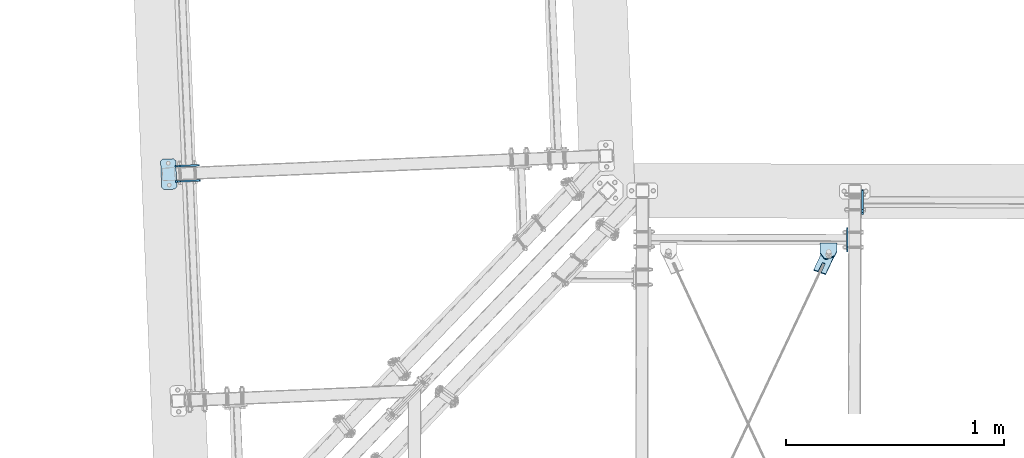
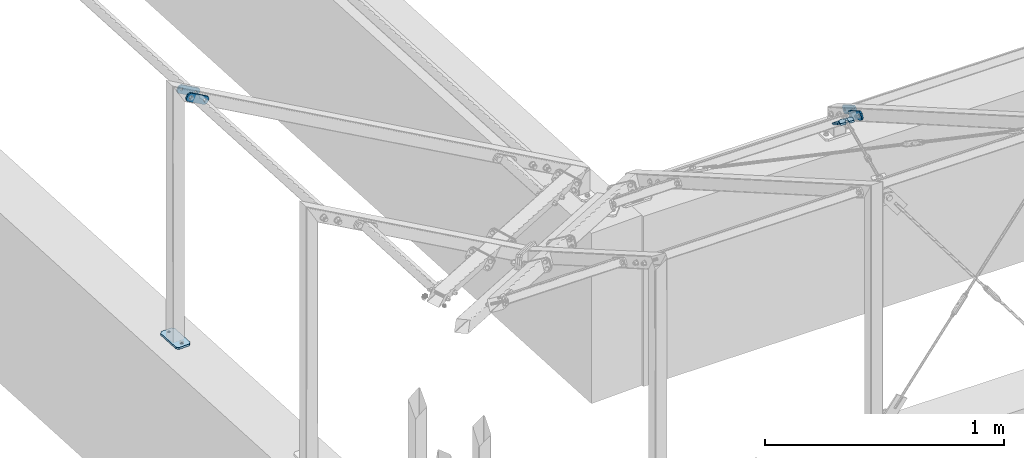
# One storey, part 30 of 288: 7 plates, 38 openings.
"""IFC2X3 building model written with IfcOpenShell, lengths in millimetres."""

from ifc_helpers import new_model, entity, si_unit, converted_unit, point, frame, frame_2d, origin, origin_with_axes, origin_2d_with_axis, place, context, project, spatial, polyline, circle_curve, line_curve, trimmed, segment, composite_curve, circle, outline, extrude, material, layer, layer_set, element, save


model = new_model("IFC2X3")

# Units and contexts
model_context = context("Model", 3, precision=1e-09, world=origin_with_axes())
ifc_project = project(units=[si_unit("LENGTHUNIT", "METRE", prefix="MILLI"), si_unit("AREAUNIT", "SQUARE_METRE"), si_unit("VOLUMEUNIT", "CUBIC_METRE"), converted_unit("PLANEANGLEUNIT", "DEGREE", entity("IfcPlaneAngleMeasure", 0.01745329), si_unit("PLANEANGLEUNIT", "RADIAN"), dimensions=[0, 0, 0, 0, 0, 0, 0])], contexts=[model_context])

# Site, building, storey
site_placement = place(None, origin_with_axes())
site = spatial("IfcSite", under=ifc_project, at=site_placement, Name="Remont ?wietlik?w nad MC w NCPP w Opolu", CompositionType="ELEMENT")
building_placement = place(site_placement, origin_with_axes())
building = spatial("IfcBuilding", under=site, at=building_placement, Name="Konstrukcja 1", CompositionType="ELEMENT")
storey_placement = place(building_placement, origin_with_axes())
storey = spatial("IfcBuildingStorey", under=building, at=storey_placement, Name="Default Storey", CompositionType="ELEMENT", Elevation=0.0)

# Plate, openings
ifc_material = material(Name="S235")
ifc_layer_1 = layer(ifc_material, 8.0)
ifc_layer_set_1 = layer_set([ifc_layer_1], Name="S235")
plate_1_placement = place(None, frame((-183.469602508, 1988.506375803, 1232.680042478), z_axis=(-0.041662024, 0.999131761, 1.7472e-05), x_axis=(0.499566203, 0.020815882, 0.866025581)))
plate_1 = element("IfcPlate", 1, at=plate_1_placement, inside=storey, material=ifc_layer_set_1, Name="-", ObjectType="-", context=model_context, shape_type="SweptSolid", body=[
    extrude(outline(polyline([(0.0, 0.0), (40.0, 0.0), (40.0, 120.0), (0.0, 120.0), (0.0, 0.0)])), origin_with_axes(), (0.0, 0.0, 1.0), 8.0),
])
opening_1_placement = place(plate_1_placement, frame((0.0, 0.0, -0.01), z_axis=(0.0, 0.0, 1.0), x_axis=(1.0, 0.0, 0.0)))
element("IfcOpeningElement", 2, at=opening_1_placement, cuts=plate_1, ObjectType="Opening", context=model_context, shape_type="SweptSolid", body=[
    extrude(outline(composite_curve([segment(trimmed(line_curve((40.0, 0.0), (0.0, 1.0), 10.0), [point((40.0, 0.0))], [point((40.0, 10.0))], True, "CARTESIAN"), True, "CONTINUOUS"), segment(trimmed(circle_curve(frame_2d((30.0, 10.0), x_axis=(-1.0, 0.0)), 10.0), [point((40.0, 10.0))], [point((30.0, 0.0))], False, "CARTESIAN"), True, "CONTINUOUS"), segment(trimmed(line_curve((30.0, 0.0), (1.0, 0.0), 10.0), [point((30.0, 0.0))], [point((40.0, 0.0))], True, "CARTESIAN"), True, "CONTINUOUS")], self_intersect=False)), origin(), (0.0, 0.0, 1.0), 8.02),
])
opening_2_placement = place(plate_1_placement, frame((0.0, 0.0, -0.01), z_axis=(0.0, 0.0, 1.0), x_axis=(1.0, 0.0, 0.0)))
element("IfcOpeningElement", 3, at=opening_2_placement, cuts=plate_1, ObjectType="Opening", context=model_context, shape_type="SweptSolid", body=[
    extrude(outline(composite_curve([segment(trimmed(line_curve((0.0, 0.0), (1.0, 0.0), 10.0), [point((0.0, 0.0))], [point((10.0, 0.0))], True, "CARTESIAN"), True, "CONTINUOUS"), segment(trimmed(circle_curve(frame_2d((10.0, 10.0), x_axis=(-1.0, 0.0)), 10.0), [point((10.0, 0.0))], [point((0.0, 10.0))], False, "CARTESIAN"), True, "CONTINUOUS"), segment(trimmed(line_curve((0.0, 10.0), (0.0, -1.0), 10.0), [point((0.0, 10.0))], [point((0.0, 0.0))], True, "CARTESIAN"), True, "CONTINUOUS")], self_intersect=False)), origin(), (0.0, 0.0, 1.0), 8.02),
])
opening_3_placement = place(plate_1_placement, frame((0.0, 0.0, -0.01), z_axis=(0.0, 0.0, 1.0), x_axis=(1.0, 0.0, 0.0)))
element("IfcOpeningElement", 4, at=opening_3_placement, cuts=plate_1, ObjectType="Opening", context=model_context, shape_type="SweptSolid", body=[
    extrude(outline(composite_curve([segment(trimmed(line_curve((40.0, 120.0), (-1.0, 0.0), 10.0), [point((40.0, 120.0))], [point((30.0, 120.0))], True, "CARTESIAN"), True, "CONTINUOUS"), segment(trimmed(circle_curve(frame_2d((30.0, 110.0), x_axis=(-1.0, 0.0)), 10.0), [point((30.0, 120.0))], [point((40.0, 110.0))], False, "CARTESIAN"), True, "CONTINUOUS"), segment(trimmed(line_curve((40.0, 110.0), (0.0, 1.0), 10.0), [point((40.0, 110.0))], [point((40.0, 120.0))], True, "CARTESIAN"), True, "CONTINUOUS")], self_intersect=False)), origin(), (0.0, 0.0, 1.0), 8.02),
])
opening_4_placement = place(plate_1_placement, frame((0.0, 0.0, -0.01), z_axis=(0.0, 0.0, 1.0), x_axis=(1.0, 0.0, 0.0)))
element("IfcOpeningElement", 5, at=opening_4_placement, cuts=plate_1, ObjectType="Opening", context=model_context, shape_type="SweptSolid", body=[
    extrude(outline(composite_curve([segment(trimmed(line_curve((0.0, 120.0), (0.0, -1.0), 10.0), [point((0.0, 120.0))], [point((0.0, 110.0))], True, "CARTESIAN"), True, "CONTINUOUS"), segment(trimmed(circle_curve(frame_2d((10.0, 110.0), x_axis=(-1.0, 0.0)), 10.0), [point((0.0, 110.0))], [point((10.0, 120.0))], False, "CARTESIAN"), True, "CONTINUOUS"), segment(trimmed(line_curve((10.0, 120.0), (-1.0, 0.0), 10.0), [point((10.0, 120.0))], [point((0.0, 120.0))], True, "CARTESIAN"), True, "CONTINUOUS")], self_intersect=False)), origin(), (0.0, 0.0, 1.0), 8.02),
])
opening_5_placement = place(plate_1_placement, frame((12.999, 20.0, 8.5), z_axis=(0.0, 0.0, 1.0), x_axis=(1.0, 0.0, 0.0)))
element("IfcOpeningElement", 6, at=opening_5_placement, cuts=plate_1, ObjectType="Opening", context=model_context, shape_type="SweptSolid", body=[
    extrude(circle(Radius=7.001, at=frame_2d((7.001, 0.0), x_axis=(1.0, 0.0))), origin(), (0.0, 0.0, -1.0), 9.0),
])
opening_6_placement = place(plate_1_placement, frame((12.999, 100.0, 8.5), z_axis=(0.0, 0.0, 1.0), x_axis=(1.0, 0.0, 0.0)))
element("IfcOpeningElement", 7, at=opening_6_placement, cuts=plate_1, ObjectType="Opening", context=model_context, shape_type="SweptSolid", body=[
    extrude(circle(Radius=7.001, at=frame_2d((7.001, 0.0), x_axis=(1.0, 0.0))), origin(), (0.0, 0.0, -1.0), 9.0),
])

plate_2_placement = place(None, frame((-180.553260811, 1918.567152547, 1232.678819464), z_axis=(-0.041662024, 0.999131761, 1.7472e-05), x_axis=(0.499566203, 0.020815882, 0.866025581)))
plate_2 = element("IfcPlate", 8, at=plate_2_placement, inside=storey, material=ifc_layer_set_1, Name="-", ObjectType="-", context=model_context, shape_type="SweptSolid", body=[
    extrude(outline(polyline([(0.0, 0.0), (40.0, 0.0), (40.0, 120.0), (0.0, 120.0), (0.0, 0.0)])), origin_with_axes(), (0.0, 0.0, 1.0), 8.0),
])
opening_7_placement = place(plate_2_placement, frame((0.0, 0.0, -0.01), z_axis=(0.0, 0.0, 1.0), x_axis=(1.0, 0.0, 0.0)))
element("IfcOpeningElement", 9, at=opening_7_placement, cuts=plate_2, ObjectType="Opening", context=model_context, shape_type="SweptSolid", body=[
    extrude(outline(composite_curve([segment(trimmed(line_curve((40.0, 0.0), (0.0, 1.0), 10.0), [point((40.0, 0.0))], [point((40.0, 10.0))], True, "CARTESIAN"), True, "CONTINUOUS"), segment(trimmed(circle_curve(frame_2d((30.0, 10.0), x_axis=(-1.0, 0.0)), 10.0), [point((40.0, 10.0))], [point((30.0, 0.0))], False, "CARTESIAN"), True, "CONTINUOUS"), segment(trimmed(line_curve((30.0, 0.0), (1.0, 0.0), 10.0), [point((30.0, 0.0))], [point((40.0, 0.0))], True, "CARTESIAN"), True, "CONTINUOUS")], self_intersect=False)), origin(), (0.0, 0.0, 1.0), 8.02),
])
opening_8_placement = place(plate_2_placement, frame((0.0, 0.0, -0.01), z_axis=(0.0, 0.0, 1.0), x_axis=(1.0, 0.0, 0.0)))
element("IfcOpeningElement", 10, at=opening_8_placement, cuts=plate_2, ObjectType="Opening", context=model_context, shape_type="SweptSolid", body=[
    extrude(outline(composite_curve([segment(trimmed(line_curve((0.0, 0.0), (1.0, 0.0), 10.0), [point((0.0, 0.0))], [point((10.0, 0.0))], True, "CARTESIAN"), True, "CONTINUOUS"), segment(trimmed(circle_curve(frame_2d((10.0, 10.0), x_axis=(-1.0, 0.0)), 10.0), [point((10.0, 0.0))], [point((0.0, 10.0))], False, "CARTESIAN"), True, "CONTINUOUS"), segment(trimmed(line_curve((0.0, 10.0), (0.0, -1.0), 10.0), [point((0.0, 10.0))], [point((0.0, 0.0))], True, "CARTESIAN"), True, "CONTINUOUS")], self_intersect=False)), origin(), (0.0, 0.0, 1.0), 8.02),
])
opening_9_placement = place(plate_2_placement, frame((0.0, 0.0, -0.01), z_axis=(0.0, 0.0, 1.0), x_axis=(1.0, 0.0, 0.0)))
element("IfcOpeningElement", 11, at=opening_9_placement, cuts=plate_2, ObjectType="Opening", context=model_context, shape_type="SweptSolid", body=[
    extrude(outline(composite_curve([segment(trimmed(line_curve((40.0, 120.0), (-1.0, 0.0), 10.0), [point((40.0, 120.0))], [point((30.0, 120.0))], True, "CARTESIAN"), True, "CONTINUOUS"), segment(trimmed(circle_curve(frame_2d((30.0, 110.0), x_axis=(-1.0, 0.0)), 10.0), [point((30.0, 120.0))], [point((40.0, 110.0))], False, "CARTESIAN"), True, "CONTINUOUS"), segment(trimmed(line_curve((40.0, 110.0), (0.0, 1.0), 10.0), [point((40.0, 110.0))], [point((40.0, 120.0))], True, "CARTESIAN"), True, "CONTINUOUS")], self_intersect=False)), origin(), (0.0, 0.0, 1.0), 8.02),
])
opening_10_placement = place(plate_2_placement, frame((0.0, 0.0, -0.01), z_axis=(0.0, 0.0, 1.0), x_axis=(1.0, 0.0, 0.0)))
element("IfcOpeningElement", 12, at=opening_10_placement, cuts=plate_2, ObjectType="Opening", context=model_context, shape_type="SweptSolid", body=[
    extrude(outline(composite_curve([segment(trimmed(line_curve((0.0, 120.0), (0.0, -1.0), 10.0), [point((0.0, 120.0))], [point((0.0, 110.0))], True, "CARTESIAN"), True, "CONTINUOUS"), segment(trimmed(circle_curve(frame_2d((10.0, 110.0), x_axis=(-1.0, 0.0)), 10.0), [point((0.0, 110.0))], [point((10.0, 120.0))], False, "CARTESIAN"), True, "CONTINUOUS"), segment(trimmed(line_curve((10.0, 120.0), (-1.0, 0.0), 10.0), [point((10.0, 120.0))], [point((0.0, 120.0))], True, "CARTESIAN"), True, "CONTINUOUS")], self_intersect=False)), origin(), (0.0, 0.0, 1.0), 8.02),
])
opening_11_placement = place(plate_2_placement, frame((12.999, 20.0, 8.5), z_axis=(0.0, 0.0, 1.0), x_axis=(1.0, 0.0, 0.0)))
element("IfcOpeningElement", 13, at=opening_11_placement, cuts=plate_2, ObjectType="Opening", context=model_context, shape_type="SweptSolid", body=[
    extrude(circle(Radius=7.001, at=frame_2d((7.001, 0.0), x_axis=(1.0, 0.0))), origin(), (0.0, 0.0, -1.0), 9.0),
])
opening_12_placement = place(plate_2_placement, frame((12.999, 100.0, 8.5), z_axis=(0.0, 0.0, 1.0), x_axis=(1.0, 0.0, 0.0)))
element("IfcOpeningElement", 14, at=opening_12_placement, cuts=plate_2, ObjectType="Opening", context=model_context, shape_type="SweptSolid", body=[
    extrude(circle(Radius=7.001, at=frame_2d((7.001, 0.0), x_axis=(1.0, 0.0))), origin(), (0.0, 0.0, -1.0), 9.0),
])

plate_3_placement = place(None, frame((2973.751144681, 1766.458765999, 151.004710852), z_axis=(0.999997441, -0.002262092, 1.05e-07), x_axis=(0.001959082, 0.866023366, -0.499999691)))
plate_3 = element("IfcPlate", 15, at=plate_3_placement, inside=storey, material=ifc_layer_set_1, Name="-", ObjectType="-", context=model_context, shape_type="SweptSolid", body=[
    extrude(outline(polyline([(0.0, 0.0), (120.0, 0.0), (120.0, 40.0), (0.0, 40.0), (0.0, 0.0)])), origin_with_axes(), (0.0, 0.0, 1.0), 8.0),
])
opening_13_placement = place(plate_3_placement, frame((0.0, 0.0, -0.01), z_axis=(0.0, 0.0, 1.0), x_axis=(1.0, 0.0, 0.0)))
element("IfcOpeningElement", 16, at=opening_13_placement, cuts=plate_3, ObjectType="Opening", context=model_context, shape_type="SweptSolid", body=[
    extrude(outline(composite_curve([segment(trimmed(line_curve((0.0, 40.0), (0.0, -1.0), 10.0), [point((0.0, 40.0))], [point((0.0, 30.0))], True, "CARTESIAN"), True, "CONTINUOUS"), segment(trimmed(circle_curve(frame_2d((10.0, 30.0), x_axis=(-1.0, 0.0)), 10.0), [point((0.0, 30.0))], [point((10.0, 40.0))], False, "CARTESIAN"), True, "CONTINUOUS"), segment(trimmed(line_curve((10.0, 40.0), (-1.0, 0.0), 10.0), [point((10.0, 40.0))], [point((0.0, 40.0))], True, "CARTESIAN"), True, "CONTINUOUS")], self_intersect=False)), origin(), (0.0, 0.0, 1.0), 8.02),
])
opening_14_placement = place(plate_3_placement, frame((0.0, 0.0, -0.01), z_axis=(0.0, 0.0, 1.0), x_axis=(1.0, 0.0, 0.0)))
element("IfcOpeningElement", 17, at=opening_14_placement, cuts=plate_3, ObjectType="Opening", context=model_context, shape_type="SweptSolid", body=[
    extrude(outline(composite_curve([segment(trimmed(line_curve((0.0, 0.0), (1.0, 0.0), 10.0), [point((0.0, 0.0))], [point((10.0, 0.0))], True, "CARTESIAN"), True, "CONTINUOUS"), segment(trimmed(circle_curve(frame_2d((10.0, 10.0), x_axis=(-1.0, 0.0)), 10.0), [point((10.0, 0.0))], [point((0.0, 10.0))], False, "CARTESIAN"), True, "CONTINUOUS"), segment(trimmed(line_curve((0.0, 10.0), (0.0, -1.0), 10.0), [point((0.0, 10.0))], [point((0.0, 0.0))], True, "CARTESIAN"), True, "CONTINUOUS")], self_intersect=False)), origin(), (0.0, 0.0, 1.0), 8.02),
])
opening_15_placement = place(plate_3_placement, frame((0.0, 0.0, -0.01), z_axis=(0.0, 0.0, 1.0), x_axis=(1.0, 0.0, 0.0)))
element("IfcOpeningElement", 18, at=opening_15_placement, cuts=plate_3, ObjectType="Opening", context=model_context, shape_type="SweptSolid", body=[
    extrude(outline(composite_curve([segment(trimmed(line_curve((120.0, 40.0), (-1.0, 0.0), 10.0), [point((120.0, 40.0))], [point((110.0, 40.0))], True, "CARTESIAN"), True, "CONTINUOUS"), segment(trimmed(circle_curve(frame_2d((110.0, 30.0), x_axis=(-1.0, 0.0)), 10.0), [point((110.0, 40.0))], [point((120.0, 30.0))], False, "CARTESIAN"), True, "CONTINUOUS"), segment(trimmed(line_curve((120.0, 30.0), (0.0, 1.0), 10.0), [point((120.0, 30.0))], [point((120.0, 40.0))], True, "CARTESIAN"), True, "CONTINUOUS")], self_intersect=False)), origin(), (0.0, 0.0, 1.0), 8.02),
])
opening_16_placement = place(plate_3_placement, frame((0.0, 0.0, -0.01), z_axis=(0.0, 0.0, 1.0), x_axis=(1.0, 0.0, 0.0)))
element("IfcOpeningElement", 19, at=opening_16_placement, cuts=plate_3, ObjectType="Opening", context=model_context, shape_type="SweptSolid", body=[
    extrude(outline(composite_curve([segment(trimmed(line_curve((120.0, 0.0), (0.0, 1.0), 10.0), [point((120.0, 0.0))], [point((120.0, 10.0))], True, "CARTESIAN"), True, "CONTINUOUS"), segment(trimmed(circle_curve(frame_2d((110.0, 10.0), x_axis=(-1.0, 0.0)), 10.0), [point((120.0, 10.0))], [point((110.0, 0.0))], False, "CARTESIAN"), True, "CONTINUOUS"), segment(trimmed(line_curve((110.0, 0.0), (1.0, 0.0), 10.0), [point((110.0, 0.0))], [point((120.0, 0.0))], True, "CARTESIAN"), True, "CONTINUOUS")], self_intersect=False)), origin(), (0.0, 0.0, 1.0), 8.02),
])
opening_17_placement = place(plate_3_placement, frame((27.001, 20.0, -0.5), z_axis=(0.0, 0.0, -1.0), x_axis=(-1.0, 0.0, 0.0)))
element("IfcOpeningElement", 20, at=opening_17_placement, cuts=plate_3, ObjectType="Opening", context=model_context, shape_type="SweptSolid", body=[
    extrude(circle(Radius=7.001, at=frame_2d((7.001, 0.0), x_axis=(1.0, 0.0))), origin(), (0.0, 0.0, -1.0), 9.0),
])
opening_18_placement = place(plate_3_placement, frame((107.001, 20.0, -0.5), z_axis=(0.0, 0.0, -1.0), x_axis=(-1.0, 0.0, 0.0)))
element("IfcOpeningElement", 21, at=opening_18_placement, cuts=plate_3, ObjectType="Opening", context=model_context, shape_type="SweptSolid", body=[
    extrude(circle(Radius=7.001, at=frame_2d((7.001, 0.0), x_axis=(1.0, 0.0))), origin(), (0.0, 0.0, -1.0), 9.0),
])

plate_4_placement = place(None, frame((2903.360375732, 1593.453744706, 250.980454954), z_axis=(0.999997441, -0.002262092, 1.05e-07), x_axis=(0.001959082, 0.866023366, -0.499999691)))
plate_4 = element("IfcPlate", 22, at=plate_4_placement, inside=storey, material=ifc_layer_set_1, Name="-", ObjectType="-", context=model_context, shape_type="SweptSolid", body=[
    extrude(outline(polyline([(0.0, 0.0), (120.0, 0.0), (120.0, 40.0), (0.0, 40.0), (0.0, 0.0)])), origin_with_axes(), (0.0, 0.0, 1.0), 8.0),
])
opening_19_placement = place(plate_4_placement, frame((0.0, 0.0, -0.01), z_axis=(0.0, 0.0, 1.0), x_axis=(1.0, 0.0, 0.0)))
element("IfcOpeningElement", 23, at=opening_19_placement, cuts=plate_4, ObjectType="Opening", context=model_context, shape_type="SweptSolid", body=[
    extrude(outline(composite_curve([segment(trimmed(line_curve((0.0, 40.0), (0.0, -1.0), 10.0), [point((0.0, 40.0))], [point((0.0, 30.0))], True, "CARTESIAN"), True, "CONTINUOUS"), segment(trimmed(circle_curve(frame_2d((10.0, 30.0), x_axis=(-1.0, 0.0)), 10.0), [point((0.0, 30.0))], [point((10.0, 40.0))], False, "CARTESIAN"), True, "CONTINUOUS"), segment(trimmed(line_curve((10.0, 40.0), (-1.0, 0.0), 10.0), [point((10.0, 40.0))], [point((0.0, 40.0))], True, "CARTESIAN"), True, "CONTINUOUS")], self_intersect=False)), origin(), (0.0, 0.0, 1.0), 8.02),
])
opening_20_placement = place(plate_4_placement, frame((0.0, 0.0, -0.01), z_axis=(0.0, 0.0, 1.0), x_axis=(1.0, 0.0, 0.0)))
element("IfcOpeningElement", 24, at=opening_20_placement, cuts=plate_4, ObjectType="Opening", context=model_context, shape_type="SweptSolid", body=[
    extrude(outline(composite_curve([segment(trimmed(line_curve((0.0, 0.0), (1.0, 0.0), 10.0), [point((0.0, 0.0))], [point((10.0, 0.0))], True, "CARTESIAN"), True, "CONTINUOUS"), segment(trimmed(circle_curve(frame_2d((10.0, 10.0), x_axis=(-1.0, 0.0)), 10.0), [point((10.0, 0.0))], [point((0.0, 10.0))], False, "CARTESIAN"), True, "CONTINUOUS"), segment(trimmed(line_curve((0.0, 10.0), (0.0, -1.0), 10.0), [point((0.0, 10.0))], [point((0.0, 0.0))], True, "CARTESIAN"), True, "CONTINUOUS")], self_intersect=False)), origin(), (0.0, 0.0, 1.0), 8.02),
])
opening_21_placement = place(plate_4_placement, frame((0.0, 0.0, -0.01), z_axis=(0.0, 0.0, 1.0), x_axis=(1.0, 0.0, 0.0)))
element("IfcOpeningElement", 25, at=opening_21_placement, cuts=plate_4, ObjectType="Opening", context=model_context, shape_type="SweptSolid", body=[
    extrude(outline(composite_curve([segment(trimmed(line_curve((120.0, 40.0), (-1.0, 0.0), 10.0), [point((120.0, 40.0))], [point((110.0, 40.0))], True, "CARTESIAN"), True, "CONTINUOUS"), segment(trimmed(circle_curve(frame_2d((110.0, 30.0), x_axis=(-1.0, 0.0)), 10.0), [point((110.0, 40.0))], [point((120.0, 30.0))], False, "CARTESIAN"), True, "CONTINUOUS"), segment(trimmed(line_curve((120.0, 30.0), (0.0, 1.0), 10.0), [point((120.0, 30.0))], [point((120.0, 40.0))], True, "CARTESIAN"), True, "CONTINUOUS")], self_intersect=False)), origin(), (0.0, 0.0, 1.0), 8.02),
])
opening_22_placement = place(plate_4_placement, frame((0.0, 0.0, -0.01), z_axis=(0.0, 0.0, 1.0), x_axis=(1.0, 0.0, 0.0)))
element("IfcOpeningElement", 26, at=opening_22_placement, cuts=plate_4, ObjectType="Opening", context=model_context, shape_type="SweptSolid", body=[
    extrude(outline(composite_curve([segment(trimmed(line_curve((120.0, 0.0), (0.0, 1.0), 10.0), [point((120.0, 0.0))], [point((120.0, 10.0))], True, "CARTESIAN"), True, "CONTINUOUS"), segment(trimmed(circle_curve(frame_2d((110.0, 10.0), x_axis=(-1.0, 0.0)), 10.0), [point((120.0, 10.0))], [point((110.0, 0.0))], False, "CARTESIAN"), True, "CONTINUOUS"), segment(trimmed(line_curve((110.0, 0.0), (1.0, 0.0), 10.0), [point((110.0, 0.0))], [point((120.0, 0.0))], True, "CARTESIAN"), True, "CONTINUOUS")], self_intersect=False)), origin(), (0.0, 0.0, 1.0), 8.02),
])
opening_23_placement = place(plate_4_placement, frame((27.001, 20.000292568, -0.5), z_axis=(0.0, 0.0, -1.0), x_axis=(-1.0, 0.0, 0.0)))
element("IfcOpeningElement", 27, at=opening_23_placement, cuts=plate_4, ObjectType="Opening", context=model_context, shape_type="SweptSolid", body=[
    extrude(circle(Radius=7.001, at=frame_2d((7.001, 0.0), x_axis=(1.0, 0.0))), origin(), (0.0, 0.0, -1.0), 9.0),
])
opening_24_placement = place(plate_4_placement, frame((107.001, 20.000292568, -0.5), z_axis=(0.0, 0.0, -1.0), x_axis=(-1.0, 0.0, 0.0)))
element("IfcOpeningElement", 28, at=opening_24_placement, cuts=plate_4, ObjectType="Opening", context=model_context, shape_type="SweptSolid", body=[
    extrude(circle(Radius=7.001, at=frame_2d((7.001, 0.0), x_axis=(1.0, 0.0))), origin(), (0.0, 0.0, -1.0), 9.0),
])

ifc_layer_2 = layer(ifc_material, 10.0)
ifc_layer_set_2 = layer_set([ifc_layer_2], Name="S235")
plate_5_placement = place(None, frame((-168.824330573, 1888.028982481, 9.999999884), z_axis=(0.0, 0.0, -1.0), x_axis=(-0.999131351, -0.041671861, 0.0)))
plate_5 = element("IfcPlate", 29, at=plate_5_placement, inside=storey, material=ifc_layer_set_2, Name="Baseplate", ObjectType="Baseplate", context=model_context, shape_type="SweptSolid", body=[
    extrude(outline(polyline([(0.0, 0.0), (70.0, 0.0), (70.0, 140.0), (0.0, 140.0), (0.0, 0.0)])), origin_with_axes(), (0.0, 0.0, 1.0), 10.0),
])
opening_25_placement = place(plate_5_placement, frame((0.0, 0.0, -0.01), z_axis=(0.0, 0.0, 1.0), x_axis=(1.0, 0.0, 0.0)))
element("IfcOpeningElement", 30, at=opening_25_placement, cuts=plate_5, ObjectType="Opening", context=model_context, shape_type="SweptSolid", body=[
    extrude(outline(composite_curve([segment(trimmed(line_curve((70.0, 0.0), (0.0, 1.0), 10.0), [point((70.0, 0.0))], [point((70.0, 10.0))], True, "CARTESIAN"), True, "CONTINUOUS"), segment(trimmed(circle_curve(frame_2d((60.0, 10.0), x_axis=(-1.0, 0.0)), 10.0), [point((70.0, 10.0))], [point((60.0, 0.0))], False, "CARTESIAN"), True, "CONTINUOUS"), segment(trimmed(line_curve((60.0, 0.0), (1.0, 0.0), 10.0), [point((60.0, 0.0))], [point((70.0, 0.0))], True, "CARTESIAN"), True, "CONTINUOUS")], self_intersect=False)), origin(), (0.0, 0.0, 1.0), 10.02),
])
opening_26_placement = place(plate_5_placement, frame((0.0, 0.0, -0.01), z_axis=(0.0, 0.0, 1.0), x_axis=(1.0, 0.0, 0.0)))
element("IfcOpeningElement", 31, at=opening_26_placement, cuts=plate_5, ObjectType="Opening", context=model_context, shape_type="SweptSolid", body=[
    extrude(outline(composite_curve([segment(trimmed(line_curve((0.0, 0.0), (1.0, 0.0), 10.0), [point((0.0, 0.0))], [point((10.0, 0.0))], True, "CARTESIAN"), True, "CONTINUOUS"), segment(trimmed(circle_curve(frame_2d((10.0, 10.0), x_axis=(-1.0, 0.0)), 10.0), [point((10.0, 0.0))], [point((0.0, 10.0))], False, "CARTESIAN"), True, "CONTINUOUS"), segment(trimmed(line_curve((0.0, 10.0), (0.0, -1.0), 10.0), [point((0.0, 10.0))], [point((0.0, 0.0))], True, "CARTESIAN"), True, "CONTINUOUS")], self_intersect=False)), origin(), (0.0, 0.0, 1.0), 10.02),
])
opening_27_placement = place(plate_5_placement, frame((0.0, 0.0, -0.01), z_axis=(0.0, 0.0, 1.0), x_axis=(1.0, 0.0, 0.0)))
element("IfcOpeningElement", 32, at=opening_27_placement, cuts=plate_5, ObjectType="Opening", context=model_context, shape_type="SweptSolid", body=[
    extrude(outline(composite_curve([segment(trimmed(line_curve((70.0, 140.0), (-1.0, 0.0), 10.0), [point((70.0, 140.0))], [point((60.0, 140.0))], True, "CARTESIAN"), True, "CONTINUOUS"), segment(trimmed(circle_curve(frame_2d((60.0, 130.0), x_axis=(-1.0, 0.0)), 10.0), [point((60.0, 140.0))], [point((70.0, 130.0))], False, "CARTESIAN"), True, "CONTINUOUS"), segment(trimmed(line_curve((70.0, 130.0), (0.0, 1.0), 10.0), [point((70.0, 130.0))], [point((70.0, 140.0))], True, "CARTESIAN"), True, "CONTINUOUS")], self_intersect=False)), origin(), (0.0, 0.0, 1.0), 10.02),
])
opening_28_placement = place(plate_5_placement, frame((0.0, 0.0, -0.01), z_axis=(0.0, 0.0, 1.0), x_axis=(1.0, 0.0, 0.0)))
element("IfcOpeningElement", 33, at=opening_28_placement, cuts=plate_5, ObjectType="Opening", context=model_context, shape_type="SweptSolid", body=[
    extrude(outline(composite_curve([segment(trimmed(line_curve((0.0, 140.0), (0.0, -1.0), 10.0), [point((0.0, 140.0))], [point((0.0, 130.0))], True, "CARTESIAN"), True, "CONTINUOUS"), segment(trimmed(circle_curve(frame_2d((10.0, 130.0), x_axis=(-1.0, 0.0)), 10.0), [point((0.0, 130.0))], [point((10.0, 140.0))], False, "CARTESIAN"), True, "CONTINUOUS"), segment(trimmed(line_curve((10.0, 140.0), (-1.0, 0.0), 10.0), [point((10.0, 140.0))], [point((0.0, 140.0))], True, "CARTESIAN"), True, "CONTINUOUS")], self_intersect=False)), origin(), (0.0, 0.0, 1.0), 10.02),
])
opening_29_placement = place(plate_5_placement, frame((35.0, 20.0, 10.5), z_axis=(0.0, 0.0, -1.0), x_axis=(1.0, 0.0, 0.0)))
element("IfcOpeningElement", 34, at=opening_29_placement, cuts=plate_5, ObjectType="Opening", context=model_context, shape_type="SweptSolid", body=[
    extrude(circle(Radius=6.001, at=origin_2d_with_axis()), origin(), (0.0, 0.0, 1.0), 11.0),
])
opening_30_placement = place(plate_5_placement, frame((35.0, 120.0, 10.5), z_axis=(0.0, 0.0, -1.0), x_axis=(1.0, 0.0, 0.0)))
element("IfcOpeningElement", 35, at=opening_30_placement, cuts=plate_5, ObjectType="Opening", context=model_context, shape_type="SweptSolid", body=[
    extrude(circle(Radius=6.001, at=origin_2d_with_axis()), origin(), (0.0, 0.0, 1.0), 11.0),
])

plate_6_placement = place(None, frame((2808.847254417, 1498.08660217, 343.113941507), z_axis=(-0.001127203, -0.499998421, -0.866025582), x_axis=(-0.925763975, 0.327966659, -0.188146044)))
plate_6 = element("IfcPlate", 36, at=plate_6_placement, inside=storey, material=ifc_layer_set_1, Name="Tab_Plate#2", ObjectType="Tab_Plate#2", context=model_context, shape_type="SweptSolid", body=[
    extrude(outline(polyline([(0.0, 0.0), (60.0, 0.0), (60.0, 140.0), (0.0, 140.0), (0.0, 0.0)])), origin_with_axes(), (0.0, 0.0, 1.0), 8.0),
])
opening_31_placement = place(plate_6_placement, frame((0.0, 0.0, -0.01), z_axis=(0.0, 0.0, 1.0), x_axis=(1.0, 0.0, 0.0)))
element("IfcOpeningElement", 37, at=opening_31_placement, cuts=plate_6, ObjectType="Opening", context=model_context, shape_type="SweptSolid", body=[
    extrude(outline(composite_curve([segment(trimmed(line_curve((60.0, 140.0), (-1.0, 0.0), 30.0), [point((60.0, 140.0))], [point((30.0, 140.0))], True, "CARTESIAN"), True, "CONTINUOUS"), segment(trimmed(circle_curve(frame_2d((30.0, 110.0), x_axis=(-1.0, 0.0)), 30.0), [point((30.0, 140.0))], [point((60.0, 110.0))], False, "CARTESIAN"), True, "CONTINUOUS"), segment(trimmed(line_curve((60.0, 110.0), (0.0, 1.0), 30.0), [point((60.0, 110.0))], [point((60.0, 140.0))], True, "CARTESIAN"), True, "CONTINUOUS")], self_intersect=False)), origin(), (0.0, 0.0, 1.0), 8.02),
])
opening_32_placement = place(plate_6_placement, frame((0.0, 0.0, -0.01), z_axis=(0.0, 0.0, 1.0), x_axis=(1.0, 0.0, 0.0)))
element("IfcOpeningElement", 38, at=opening_32_placement, cuts=plate_6, ObjectType="Opening", context=model_context, shape_type="SweptSolid", body=[
    extrude(outline(composite_curve([segment(trimmed(line_curve((0.0, 140.0), (0.0, -1.0), 30.0), [point((0.0, 140.0))], [point((0.0, 110.0))], True, "CARTESIAN"), True, "CONTINUOUS"), segment(trimmed(circle_curve(frame_2d((30.0, 110.0), x_axis=(-1.0, 0.0)), 30.0), [point((0.0, 110.0))], [point((30.0, 140.0))], False, "CARTESIAN"), True, "CONTINUOUS"), segment(trimmed(line_curve((30.0, 140.0), (-1.0, 0.0), 30.0), [point((30.0, 140.0))], [point((0.0, 140.0))], True, "CARTESIAN"), True, "CONTINUOUS")], self_intersect=False)), origin(), (0.0, 0.0, 1.0), 8.02),
])
opening_33_placement = place(plate_6_placement, frame((0.0, 0.0, 8.1), z_axis=(0.0, 0.0, -1.0), x_axis=(0.926500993, -0.376292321, 0.0)))
element("IfcOpeningElement", 39, at=opening_33_placement, cuts=plate_6, ObjectType="Opening", context=model_context, shape_type="SweptSolid", body=[
    extrude(outline(polyline([(2.11731166, -55.906824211), (15.090178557, -61.17566929), (34.281839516, -13.922265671), (21.308972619, -8.653420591), (2.11731166, -55.906824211)])), origin(), (0.0, 0.0, 1.0), 8.2),
])
opening_34_placement = place(plate_6_placement, frame((30.0, 110.0, 8.5), z_axis=(0.0, 0.0, -1.0), x_axis=(0.0, -1.0, 0.0)))
element("IfcOpeningElement", 40, at=opening_34_placement, cuts=plate_6, ObjectType="Opening", context=model_context, shape_type="SweptSolid", body=[
    extrude(circle(Radius=9.001, at=origin_2d_with_axis()), origin(), (0.0, 0.0, 1.0), 9.0),
])

plate_7_placement = place(None, frame((2783.531400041, 1573.886483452, 280.908752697), z_axis=(0.001127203, 0.499998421, 0.866025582), x_axis=(0.925763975, -0.327966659, 0.188146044)))
plate_7 = element("IfcPlate", 41, at=plate_7_placement, inside=storey, material=ifc_layer_set_1, Name="Gusset#2", ObjectType="Gusset#2", context=model_context, shape_type="SweptSolid", body=[
    extrude(outline(polyline([(0.0, 0.0), (60.0, 0.0), (60.0, 60.0), (45.293350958, 96.211175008), (-27.128999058, 66.797876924), (0.0, 0.0)])), origin_with_axes(), (0.0, 0.0, 1.0), 8.0),
])
opening_35_placement = place(plate_7_placement, frame((30.0, 30.0, -0.5), z_axis=(0.0, 0.0, 1.0), x_axis=(0.0, -1.0, 0.0)))
element("IfcOpeningElement", 42, at=opening_35_placement, cuts=plate_7, ObjectType="Opening", context=model_context, shape_type="SweptSolid", body=[
    extrude(circle(Radius=9.001, at=origin_2d_with_axis()), origin(), (0.0, 0.0, 1.0), 9.0),
])
opening_36_placement = place(plate_7_placement, frame((0.0, 0.0, -0.01), z_axis=(0.0, 0.0, 1.0), x_axis=(1.0, 0.0, 0.0)))
element("IfcOpeningElement", 43, at=opening_36_placement, cuts=plate_7, ObjectType="Opening", context=model_context, shape_type="SweptSolid", body=[
    extrude(outline(composite_curve([segment(trimmed(line_curve((60.0, 0.0), (0.0, 1.0), 30.0), [point((60.0, 0.0))], [point((60.0, 30.0))], True, "CARTESIAN"), True, "CONTINUOUS"), segment(trimmed(circle_curve(frame_2d((30.0, 30.0), x_axis=(-1.0, 0.0)), 30.0), [point((60.0, 30.0))], [point((30.0, 0.0))], False, "CARTESIAN"), True, "CONTINUOUS"), segment(trimmed(line_curve((30.0, 0.0), (1.0, 0.0), 30.0), [point((30.0, 0.0))], [point((60.0, 0.0))], True, "CARTESIAN"), True, "CONTINUOUS")], self_intersect=False)), origin(), (0.0, 0.0, 1.0), 8.02),
])
opening_37_placement = place(plate_7_placement, frame((0.0, 0.0, -0.01), z_axis=(0.0, 0.0, 1.0), x_axis=(1.0, 0.0, 0.0)))
element("IfcOpeningElement", 44, at=opening_37_placement, cuts=plate_7, ObjectType="Opening", context=model_context, shape_type="SweptSolid", body=[
    extrude(outline(composite_curve([segment(trimmed(line_curve((0.0, 0.0), (1.0, 0.0), 20.195732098), [point((0.0, 0.0))], [point((20.195732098, 0.0))], True, "CARTESIAN"), True, "CONTINUOUS"), segment(trimmed(circle_curve(frame_2d((20.195732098, 30.0), x_axis=(-1.0, 0.0)), 30.0), [point((20.195732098, 0.0))], [point((-7.599373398, 18.711416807))], False, "CARTESIAN"), True, "CONTINUOUS"), segment(trimmed(line_curve((-7.599373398, 18.711416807), (0.376286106, -0.926503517), 20.195732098), [point((-7.599373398, 18.711416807))], [point((0.0, 0.0))], True, "CARTESIAN"), True, "CONTINUOUS")], self_intersect=False)), origin(), (0.0, 0.0, 1.0), 8.02),
])
opening_38_placement = place(plate_7_placement, frame((0.0, 0.0, -0.01), z_axis=(0.0, 0.0, 1.0), x_axis=(1.0, 0.0, 0.0)))
element("IfcOpeningElement", 45, at=opening_38_placement, cuts=plate_7, ObjectType="Opening", context=model_context, shape_type="SweptSolid", body=[
    extrude(outline(composite_curve([segment(trimmed(line_curve((60.0, 60.0), (-0.376286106, 0.926503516), 5.859622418), [point((60.0, 60.0))], [point((57.795105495, 65.428960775))], True, "CARTESIAN"), True, "CONTINUOUS"), segment(trimmed(circle_curve(frame_2d((30.0, 54.140377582), x_axis=(-1.0, 0.0)), 30.0), [point((57.795105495, 65.428960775))], [point((60.0, 54.140377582))], False, "CARTESIAN"), True, "CONTINUOUS"), segment(trimmed(line_curve((60.0, 54.140377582), (0.0, 1.0), 5.859622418), [point((60.0, 54.140377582))], [point((60.0, 60.0))], True, "CARTESIAN"), True, "CONTINUOUS")], self_intersect=False)), origin(), (0.0, 0.0, 1.0), 8.02),
])

save(model, "model.ifc")
